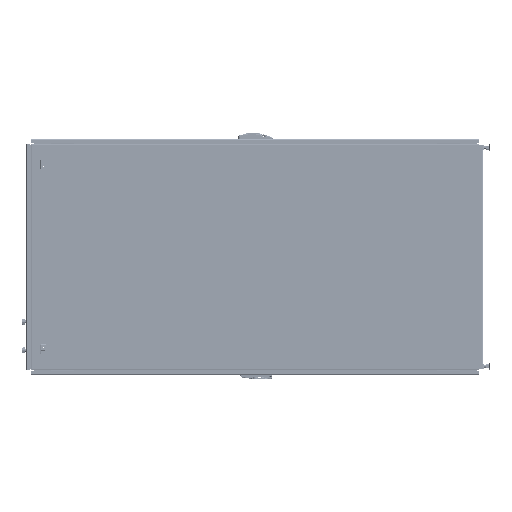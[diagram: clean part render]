
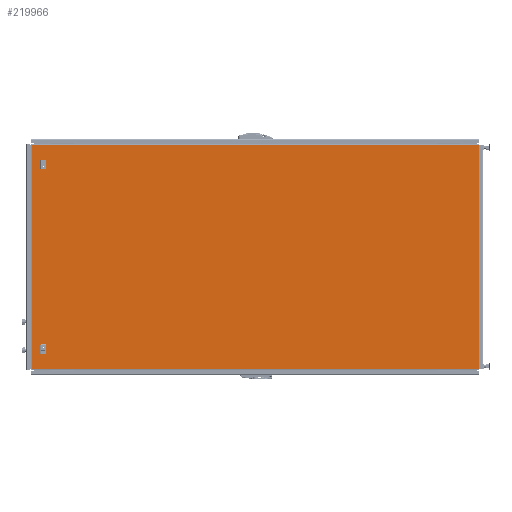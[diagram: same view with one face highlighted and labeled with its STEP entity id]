
A CAD part, left-side view. The second image highlights one B-rep face of the part: STEP entity #219966.
In plain terms, the highlighted planar face has unit normal (-1, 0, 0) as drawn and (0, 0, 1) by its records, which use the part's own axes.
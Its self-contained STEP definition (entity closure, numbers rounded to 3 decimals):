
#7653 = EDGE_CURVE ( 'NONE', #75180, #64754, #114472, .T. ) ;
#11386 = VERTEX_POINT ( 'NONE', #38835 ) ;
#19802 = CARTESIAN_POINT ( 'NONE',  ( 448.6, 2043.003, 0. ) ) ;
#25376 = ORIENTED_EDGE ( 'NONE', *, *, #291689, .F. ) ;
#25993 = VERTEX_POINT ( 'NONE', #39353 ) ;
#26204 = CARTESIAN_POINT ( 'NONE',  ( -448.6, 2043.003, 0. ) ) ;
#34938 = CARTESIAN_POINT ( 'NONE',  ( -410.5, 2017.603, 0. ) ) ;
#35626 = VECTOR ( 'NONE', #441205, 1000. ) ;
#38835 = CARTESIAN_POINT ( 'NONE',  ( 523.779, 2084.682, 0. ) ) ;
#39353 = CARTESIAN_POINT ( 'NONE',  ( -448.6, 2017.603, 0. ) ) ;
#45486 = CARTESIAN_POINT ( 'NONE',  ( -523.779, 1.524, 0. ) ) ;
#46738 = VERTEX_POINT ( 'NONE', #86142 ) ;
#48689 = VECTOR ( 'NONE', #165636, 1000. ) ;
#48927 = EDGE_CURVE ( 'NONE', #25993, #181118, #379833, .T. ) ;
#49342 = LINE ( 'NONE', #310219, #462658 ) ;
#51843 = VERTEX_POINT ( 'NONE', #443112 ) ;
#56469 = AXIS2_PLACEMENT_3D ( 'NONE', #233817, #240163, #277078 ) ;
#59674 = EDGE_LOOP ( 'NONE', ( #467495, #432436, #312265, #67983 ) ) ;
#64754 = VERTEX_POINT ( 'NONE', #70057 ) ;
#67983 = ORIENTED_EDGE ( 'NONE', *, *, #282747, .T. ) ;
#70057 = CARTESIAN_POINT ( 'NONE',  ( 448.6, 2017.603, 0. ) ) ;
#75180 = VERTEX_POINT ( 'NONE', #471999 ) ;
#77510 = VECTOR ( 'NONE', #270788, 1000. ) ;
#79861 = CARTESIAN_POINT ( 'NONE',  ( -410.5, 2043.003, 0. ) ) ;
#83664 = FACE_BOUND ( 'NONE', #101846, .T. ) ;
#86142 = CARTESIAN_POINT ( 'NONE',  ( -523.779, 2084.682, 0. ) ) ;
#89475 = CARTESIAN_POINT ( 'NONE',  ( -523.779, 2086.206, 0. ) ) ;
#90978 = PLANE ( 'NONE',  #56469 ) ;
#100598 = DIRECTION ( 'NONE',  ( 1., 0., 0. ) ) ;
#101846 = EDGE_LOOP ( 'NONE', ( #217885, #417216, #422335, #25376 ) ) ;
#101862 = DIRECTION ( 'NONE',  ( 0., -1., 0. ) ) ;
#109841 = VECTOR ( 'NONE', #456875, 1000. ) ;
#111832 = LINE ( 'NONE', #316374, #48689 ) ;
#114472 = LINE ( 'NONE', #356099, #298196 ) ;
#126908 = CARTESIAN_POINT ( 'NONE',  ( 448.6, 2043.003, 0. ) ) ;
#127403 = LINE ( 'NONE', #89475, #109841 ) ;
#129155 = CARTESIAN_POINT ( 'NONE',  ( 448.6, 2043.003, 0. ) ) ;
#129395 = ORIENTED_EDGE ( 'NONE', *, *, #7653, .F. ) ;
#137448 = LINE ( 'NONE', #321743, #384149 ) ;
#161238 = VECTOR ( 'NONE', #101862, 1000. ) ;
#162063 = EDGE_CURVE ( 'NONE', #250255, #25993, #258742, .T. ) ;
#162670 = DIRECTION ( 'NONE',  ( -1., 0., 0. ) ) ;
#164165 = DIRECTION ( 'NONE',  ( 0., -1., 0. ) ) ;
#165636 = DIRECTION ( 'NONE',  ( -1., 0., 0. ) ) ;
#181118 = VERTEX_POINT ( 'NONE', #34938 ) ;
#181122 = LINE ( 'NONE', #237005, #77510 ) ;
#184307 = LINE ( 'NONE', #126908, #390949 ) ;
#186079 = VECTOR ( 'NONE', #100598, 1000. ) ;
#192930 = EDGE_CURVE ( 'NONE', #447361, #250255, #302988, .T. ) ;
#196937 = EDGE_CURVE ( 'NONE', #319903, #75180, #49342, .T. ) ;
#198227 = VECTOR ( 'NONE', #162670, 1000. ) ;
#210920 = EDGE_CURVE ( 'NONE', #11386, #46738, #111832, .T. ) ;
#214574 = LINE ( 'NONE', #320446, #186079 ) ;
#217885 = ORIENTED_EDGE ( 'NONE', *, *, #48927, .F. ) ;
#219966 = ADVANCED_FACE ( 'NONE', ( #364966, #83664, #278911 ), #90978, .F. ) ;
#233817 = CARTESIAN_POINT ( 'NONE',  ( -525.303, 2086.206, 0. ) ) ;
#235071 = EDGE_LOOP ( 'NONE', ( #396090, #389177, #295026, #129395 ) ) ;
#237005 = CARTESIAN_POINT ( 'NONE',  ( 523.779, 0., 0. ) ) ;
#240163 = DIRECTION ( 'NONE',  ( 0., 0., -1. ) ) ;
#250255 = VERTEX_POINT ( 'NONE', #26204 ) ;
#258742 = LINE ( 'NONE', #389107, #161238 ) ;
#270788 = DIRECTION ( 'NONE',  ( 0., 1., 0. ) ) ;
#277078 = DIRECTION ( 'NONE',  ( -1., 0., 0. ) ) ;
#278911 = FACE_OUTER_BOUND ( 'NONE', #59674, .T. ) ;
#282747 = EDGE_CURVE ( 'NONE', #51843, #11386, #181122, .T. ) ;
#288668 = CARTESIAN_POINT ( 'NONE',  ( -448.6, 2043.003, 0. ) ) ;
#291689 = EDGE_CURVE ( 'NONE', #181118, #447361, #137448, .T. ) ;
#295026 = ORIENTED_EDGE ( 'NONE', *, *, #311692, .F. ) ;
#298196 = VECTOR ( 'NONE', #317654, 1000. ) ;
#302988 = LINE ( 'NONE', #288668, #401093 ) ;
#309491 = EDGE_CURVE ( 'NONE', #428984, #51843, #214574, .T. ) ;
#310219 = CARTESIAN_POINT ( 'NONE',  ( 410.5, 2043.003, 0. ) ) ;
#311692 = EDGE_CURVE ( 'NONE', #64754, #322198, #184307, .T. ) ;
#312265 = ORIENTED_EDGE ( 'NONE', *, *, #309491, .T. ) ;
#316374 = CARTESIAN_POINT ( 'NONE',  ( 523.779, 2084.682, 0. ) ) ;
#317654 = DIRECTION ( 'NONE',  ( 1., 0., 0. ) ) ;
#319903 = VERTEX_POINT ( 'NONE', #449550 ) ;
#320446 = CARTESIAN_POINT ( 'NONE',  ( -523.779, 1.524, 0. ) ) ;
#321743 = CARTESIAN_POINT ( 'NONE',  ( -410.5, 2043.003, 0. ) ) ;
#322198 = VERTEX_POINT ( 'NONE', #129155 ) ;
#325547 = DIRECTION ( 'NONE',  ( -1., 0., 0. ) ) ;
#330515 = CARTESIAN_POINT ( 'NONE',  ( -448.6, 2017.603, 0. ) ) ;
#331167 = DIRECTION ( 'NONE',  ( 0., 1., 0. ) ) ;
#356099 = CARTESIAN_POINT ( 'NONE',  ( 448.6, 2017.603, 0. ) ) ;
#364966 = FACE_BOUND ( 'NONE', #235071, .T. ) ;
#376547 = EDGE_CURVE ( 'NONE', #322198, #319903, #393330, .T. ) ;
#379833 = LINE ( 'NONE', #330515, #35626 ) ;
#384149 = VECTOR ( 'NONE', #331167, 1000. ) ;
#389107 = CARTESIAN_POINT ( 'NONE',  ( -448.6, 2043.003, 0. ) ) ;
#389177 = ORIENTED_EDGE ( 'NONE', *, *, #376547, .F. ) ;
#390949 = VECTOR ( 'NONE', #417269, 1000. ) ;
#393330 = LINE ( 'NONE', #19802, #198227 ) ;
#396090 = ORIENTED_EDGE ( 'NONE', *, *, #196937, .F. ) ;
#401093 = VECTOR ( 'NONE', #325547, 1000. ) ;
#417216 = ORIENTED_EDGE ( 'NONE', *, *, #162063, .F. ) ;
#417269 = DIRECTION ( 'NONE',  ( 0., 1., 0. ) ) ;
#422335 = ORIENTED_EDGE ( 'NONE', *, *, #192930, .F. ) ;
#428984 = VERTEX_POINT ( 'NONE', #45486 ) ;
#432436 = ORIENTED_EDGE ( 'NONE', *, *, #475194, .T. ) ;
#441205 = DIRECTION ( 'NONE',  ( 1., 0., 0. ) ) ;
#443112 = CARTESIAN_POINT ( 'NONE',  ( 523.779, 1.524, 0. ) ) ;
#447361 = VERTEX_POINT ( 'NONE', #79861 ) ;
#449550 = CARTESIAN_POINT ( 'NONE',  ( 410.5, 2043.003, 0. ) ) ;
#456875 = DIRECTION ( 'NONE',  ( 0., -1., 0. ) ) ;
#462658 = VECTOR ( 'NONE', #164165, 1000. ) ;
#467495 = ORIENTED_EDGE ( 'NONE', *, *, #210920, .T. ) ;
#471999 = CARTESIAN_POINT ( 'NONE',  ( 410.5, 2017.603, 0. ) ) ;
#475194 = EDGE_CURVE ( 'NONE', #46738, #428984, #127403, .T. ) ;
